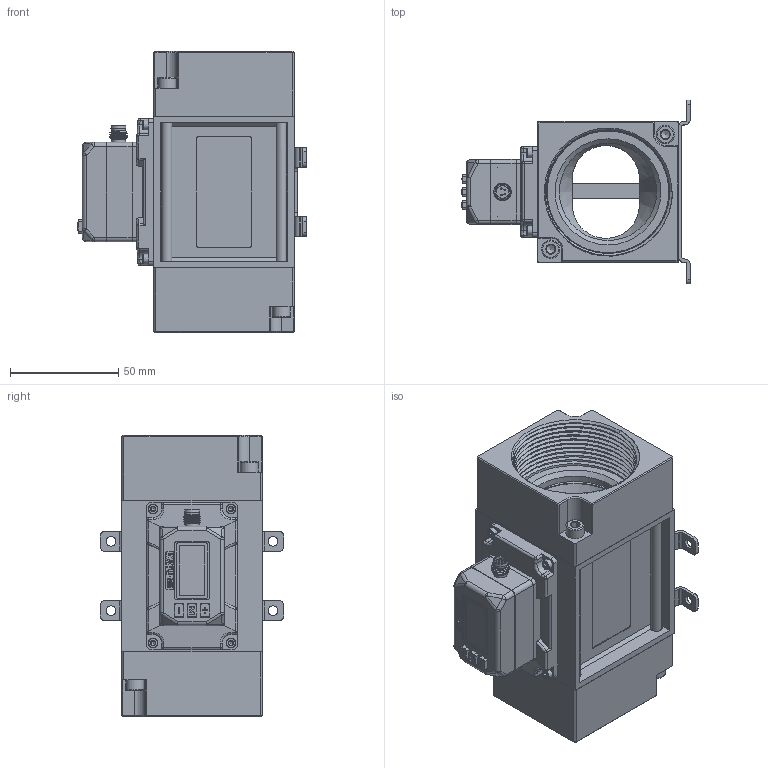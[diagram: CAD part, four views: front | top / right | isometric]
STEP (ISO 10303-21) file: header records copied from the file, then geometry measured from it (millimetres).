
FILE_DESCRIPTION( (''), '2;1');
FILE_NAME( 'QEKJ_400L_R2_M12_LED-display_bracket.step', '2023-06-27T08:31:18+08:00', (''), (''), '', '', '');
FILE_SCHEMA (('AUTOMOTIVE_DESIGN { 1 0 10303 214 3 1 1 1 }'));
Products named in the file (1): QEKJ 400L_R2_M12_LED-display_bracket
Bounding box: 105.6 x 85 x 130 mm (x, y, z)
Volume: 249923.3 mm3; surface area: 131765.9 mm2
Topology: 19 solids, 20 shells, 1519 faces, 3749 edges, 2342 vertices
Faces by surface type: plane 837, cylinder 390, cone 148, torus 60, extrusion 44, sphere 28, bspline 12
Full cylindrical faces by diameter (mm): 0.6 x4, 1.6 x4, 2 x3, 2.05 x8, 2.38 x4, 2.8 x4, 3 x4, 3.3 x4, 4 x1, 4.2 x4, 4.5 x12, 4.826 x8, 5 x8, 5.5 x12, 5.8 x1, 6.5 x2, 8 x8, 8.5 x16, 45 x2
Entity records: 53930 total; most frequent: CARTESIAN_POINT 18427, DIRECTION 7023, ORIENTED_EDGE 6856, EDGE_CURVE 3428, AXIS2_PLACEMENT_3D 2478, VERTEX_POINT 2272, VECTOR 2067, LINE 2023
